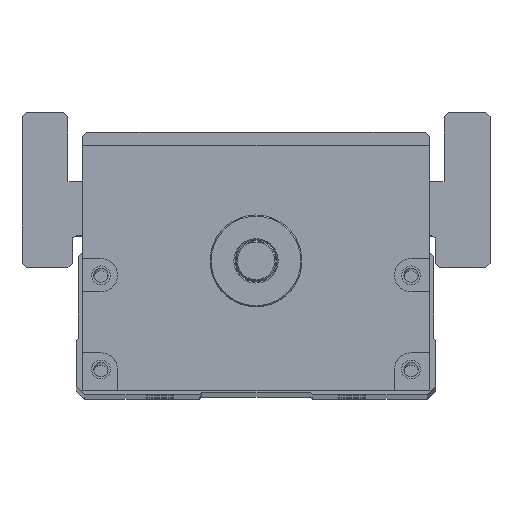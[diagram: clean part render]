
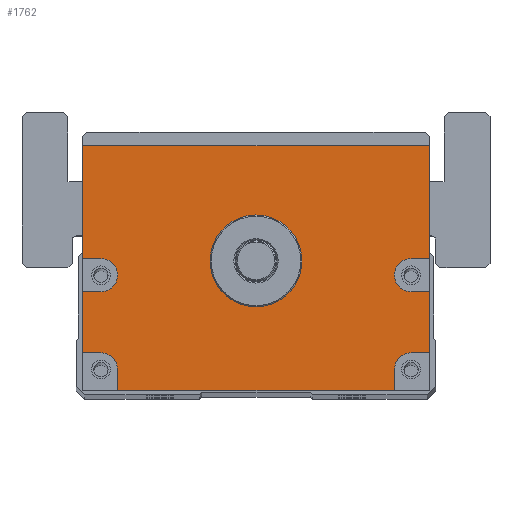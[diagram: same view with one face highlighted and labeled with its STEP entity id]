
A CAD part, top view. The second image highlights one B-rep face of the part: STEP entity #1762.
In plain terms, the highlighted planar face has unit normal (0, 0, 1).
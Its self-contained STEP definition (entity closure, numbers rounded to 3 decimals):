
#1762=ADVANCED_FACE('',(#4162,#4163),#2232,.T.);
#2232=PLANE('',#12295);
#2897=LINE('',#26845,#3657);
#2899=LINE('',#26853,#3659);
#2900=LINE('',#26856,#3660);
#2901=LINE('',#26858,#3661);
#2902=LINE('',#26862,#3662);
#2903=LINE('',#26864,#3663);
#2904=LINE('',#26865,#3664);
#2905=LINE('',#26867,#3665);
#2906=LINE('',#26871,#3666);
#2907=LINE('',#26873,#3667);
#2908=LINE('',#26875,#3668);
#2909=LINE('',#26879,#3669);
#2910=LINE('',#26881,#3670);
#2911=LINE('',#26883,#3671);
#3657=VECTOR('',#14743,1.);
#3659=VECTOR('',#14751,1.);
#3660=VECTOR('',#14752,1.);
#3661=VECTOR('',#14753,1.);
#3662=VECTOR('',#14756,1.);
#3663=VECTOR('',#14757,1.);
#3664=VECTOR('',#14758,1.);
#3665=VECTOR('',#14759,1.);
#3666=VECTOR('',#14762,1.);
#3667=VECTOR('',#14763,1.);
#3668=VECTOR('',#14764,1.);
#3669=VECTOR('',#14767,1.);
#3670=VECTOR('',#14768,1.);
#3671=VECTOR('',#14769,1.);
#4162=FACE_BOUND('',#5008,.T.);
#4163=FACE_BOUND('',#5009,.T.);
#5008=EDGE_LOOP('',(#7500,#7501,#7502,#7503,#7504,#7505,#7506,#7507,#7508,
#7509,#7510,#7511,#7512,#7513,#7514,#7515,#7516,#7517));
#5009=EDGE_LOOP('',(#7518));
#7500=ORIENTED_EDGE('',*,*,#10618,.F.);
#7501=ORIENTED_EDGE('',*,*,#10619,.T.);
#7502=ORIENTED_EDGE('',*,*,#10620,.F.);
#7503=ORIENTED_EDGE('',*,*,#10621,.F.);
#7504=ORIENTED_EDGE('',*,*,#10622,.F.);
#7505=ORIENTED_EDGE('',*,*,#10623,.T.);
#7506=ORIENTED_EDGE('',*,*,#10614,.T.);
#7507=ORIENTED_EDGE('',*,*,#10624,.T.);
#7508=ORIENTED_EDGE('',*,*,#10625,.F.);
#7509=ORIENTED_EDGE('',*,*,#10626,.F.);
#7510=ORIENTED_EDGE('',*,*,#10627,.F.);
#7511=ORIENTED_EDGE('',*,*,#10628,.T.);
#7512=ORIENTED_EDGE('',*,*,#10629,.F.);
#7513=ORIENTED_EDGE('',*,*,#10630,.F.);
#7514=ORIENTED_EDGE('',*,*,#10631,.F.);
#7515=ORIENTED_EDGE('',*,*,#10632,.T.);
#7516=ORIENTED_EDGE('',*,*,#10633,.F.);
#7517=ORIENTED_EDGE('',*,*,#10634,.F.);
#7518=ORIENTED_EDGE('',*,*,#10600,.T.);
#9192=VERTEX_POINT('',#26816);
#9205=VERTEX_POINT('',#26844);
#9206=VERTEX_POINT('',#26846);
#9209=VERTEX_POINT('',#26854);
#9210=VERTEX_POINT('',#26855);
#9211=VERTEX_POINT('',#26857);
#9212=VERTEX_POINT('',#26859);
#9213=VERTEX_POINT('',#26861);
#9214=VERTEX_POINT('',#26863);
#9215=VERTEX_POINT('',#26866);
#9216=VERTEX_POINT('',#26868);
#9217=VERTEX_POINT('',#26870);
#9218=VERTEX_POINT('',#26872);
#9219=VERTEX_POINT('',#26874);
#9220=VERTEX_POINT('',#26876);
#9221=VERTEX_POINT('',#26878);
#9222=VERTEX_POINT('',#26880);
#9223=VERTEX_POINT('',#26882);
#9224=VERTEX_POINT('',#26884);
#10600=EDGE_CURVE('',#9192,#9192,#11362,.T.);
#10614=EDGE_CURVE('',#9206,#9205,#2897,.T.);
#10618=EDGE_CURVE('',#9209,#9210,#2899,.T.);
#10619=EDGE_CURVE('',#9209,#9211,#2900,.T.);
#10620=EDGE_CURVE('',#9212,#9211,#2901,.T.);
#10621=EDGE_CURVE('',#9213,#9212,#11373,.T.);
#10622=EDGE_CURVE('',#9214,#9213,#2902,.T.);
#10623=EDGE_CURVE('',#9214,#9206,#2903,.T.);
#10624=EDGE_CURVE('',#9205,#9215,#2904,.T.);
#10625=EDGE_CURVE('',#9216,#9215,#2905,.T.);
#10626=EDGE_CURVE('',#9217,#9216,#11374,.T.);
#10627=EDGE_CURVE('',#9218,#9217,#2906,.T.);
#10628=EDGE_CURVE('',#9218,#9219,#2907,.T.);
#10629=EDGE_CURVE('',#9220,#9219,#2908,.T.);
#10630=EDGE_CURVE('',#9221,#9220,#11375,.T.);
#10631=EDGE_CURVE('',#9222,#9221,#2909,.T.);
#10632=EDGE_CURVE('',#9222,#9223,#2910,.T.);
#10633=EDGE_CURVE('',#9224,#9223,#2911,.T.);
#10634=EDGE_CURVE('',#9210,#9224,#11376,.T.);
#11362=CIRCLE('',#12277,11.);
#11373=CIRCLE('',#12291,4.);
#11374=CIRCLE('',#12292,4.);
#11375=CIRCLE('',#12293,4.);
#11376=CIRCLE('',#12294,4.);
#12277=AXIS2_PLACEMENT_3D('',#26815,#14716,#14717);
#12291=AXIS2_PLACEMENT_3D('',#26860,#14754,#14755);
#12292=AXIS2_PLACEMENT_3D('',#26869,#14760,#14761);
#12293=AXIS2_PLACEMENT_3D('',#26877,#14765,#14766);
#12294=AXIS2_PLACEMENT_3D('',#26885,#14770,#14771);
#12295=AXIS2_PLACEMENT_3D('',#26886,#14772,#14773);
#14716=DIRECTION('',(0.,0.,-1.));
#14717=DIRECTION('',(1.,0.,0.));
#14743=DIRECTION('',(-1.,0.,0.));
#14751=DIRECTION('',(-1.,0.,0.));
#14752=DIRECTION('',(0.,1.,0.));
#14753=DIRECTION('',(1.,0.,0.));
#14754=DIRECTION('',(0.,0.,1.));
#14755=DIRECTION('',(1.,0.,0.));
#14756=DIRECTION('',(-1.,0.,0.));
#14757=DIRECTION('',(0.,1.,0.));
#14758=DIRECTION('',(0.,-1.,0.));
#14759=DIRECTION('',(-1.,0.,0.));
#14760=DIRECTION('',(0.,0.,1.));
#14761=DIRECTION('',(1.,0.,0.));
#14762=DIRECTION('',(1.,0.,0.));
#14763=DIRECTION('',(0.,-1.,0.));
#14764=DIRECTION('',(-1.,0.,0.));
#14765=DIRECTION('',(0.,0.,1.));
#14766=DIRECTION('',(1.,0.,0.));
#14767=DIRECTION('',(0.,1.,0.));
#14768=DIRECTION('',(1.,0.,0.));
#14769=DIRECTION('',(0.,-1.,0.));
#14770=DIRECTION('',(0.,0.,1.));
#14771=DIRECTION('',(1.,0.,0.));
#14772=DIRECTION('',(0.,0.,1.));
#14773=DIRECTION('',(1.,0.,0.));
#26815=CARTESIAN_POINT('',(300.,0.,482.5));
#26816=CARTESIAN_POINT('',(311.,0.,482.5));
#26844=CARTESIAN_POINT('',(258.5,27.5,482.5));
#26845=CARTESIAN_POINT('',(341.5,27.5,482.5));
#26846=CARTESIAN_POINT('',(341.5,27.5,482.5));
#26853=CARTESIAN_POINT('',(341.5,-22.,482.5));
#26854=CARTESIAN_POINT('',(341.5,-22.,482.5));
#26855=CARTESIAN_POINT('',(337.115,-22.,482.5));
#26856=CARTESIAN_POINT('',(341.5,-31.,482.5));
#26857=CARTESIAN_POINT('',(341.5,-7.431,482.5));
#26858=CARTESIAN_POINT('',(341.5,-7.431,482.5));
#26859=CARTESIAN_POINT('',(337.115,-7.431,482.5));
#26860=CARTESIAN_POINT('',(337.115,-3.431,482.5));
#26861=CARTESIAN_POINT('',(337.115,0.569,482.5));
#26862=CARTESIAN_POINT('',(341.5,0.569,482.5));
#26863=CARTESIAN_POINT('',(341.5,0.569,482.5));
#26864=CARTESIAN_POINT('',(341.5,-31.,482.5));
#26865=CARTESIAN_POINT('',(258.5,27.5,482.5));
#26866=CARTESIAN_POINT('',(258.5,0.569,482.5));
#26867=CARTESIAN_POINT('',(341.5,0.569,482.5));
#26868=CARTESIAN_POINT('',(262.885,0.569,482.5));
#26869=CARTESIAN_POINT('',(262.885,-3.431,482.5));
#26870=CARTESIAN_POINT('',(262.885,-7.431,482.5));
#26871=CARTESIAN_POINT('',(341.5,-7.431,482.5));
#26872=CARTESIAN_POINT('',(258.5,-7.431,482.5));
#26873=CARTESIAN_POINT('',(258.5,27.5,482.5));
#26874=CARTESIAN_POINT('',(258.5,-22.,482.5));
#26875=CARTESIAN_POINT('',(341.5,-22.,482.5));
#26876=CARTESIAN_POINT('',(262.885,-22.,482.5));
#26877=CARTESIAN_POINT('',(262.885,-26.,482.5));
#26878=CARTESIAN_POINT('',(266.885,-26.,482.5));
#26879=CARTESIAN_POINT('',(266.885,-31.,482.5));
#26880=CARTESIAN_POINT('',(266.885,-31.,482.5));
#26881=CARTESIAN_POINT('',(258.5,-31.,482.5));
#26882=CARTESIAN_POINT('',(333.115,-31.,482.5));
#26883=CARTESIAN_POINT('',(333.115,-31.,482.5));
#26884=CARTESIAN_POINT('',(333.115,-26.,482.5));
#26885=CARTESIAN_POINT('',(337.115,-26.,482.5));
#26886=CARTESIAN_POINT('',(341.5,-31.,482.5));
